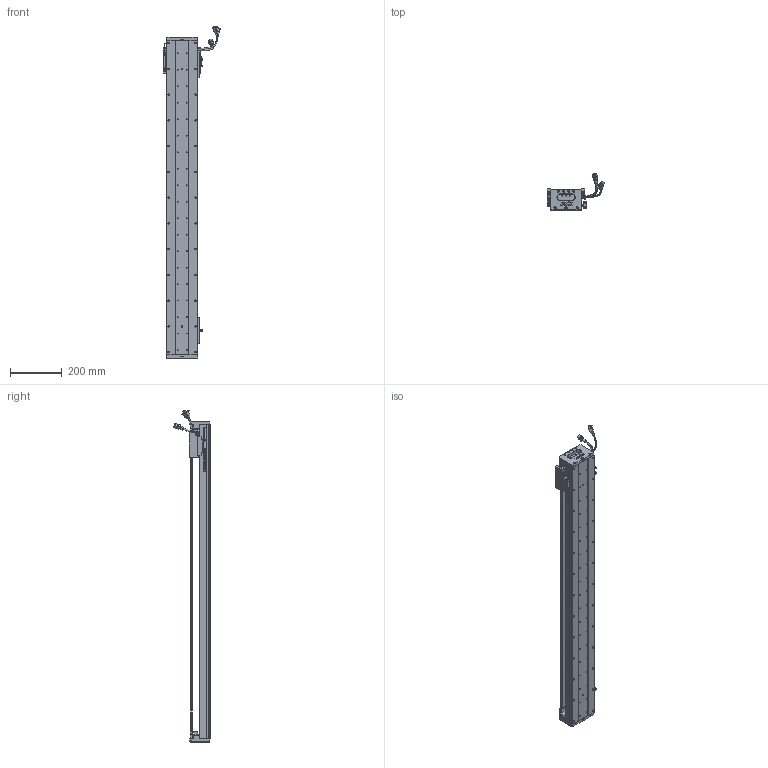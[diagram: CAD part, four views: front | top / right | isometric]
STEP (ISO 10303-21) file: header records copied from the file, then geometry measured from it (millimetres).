
FILE_DESCRIPTION (( 'STEP AP203' ), '1' );
FILE_NAME ('Z1-RY120D-1-L500-B-K.SLDASM_1050.step', '2021-05-17T03:46:13', ( '盈信电脑' ), ( '东莞市道滘镇水果街19号' ), 'SwSTEP 2.0', 'SolidWorks 2016', '' );
FILE_SCHEMA (( 'CONFIG_CONTROL_DESIGN' ));
Length unit declared in the file: millimetre
Products named in the file (37): Z1-RY120D-1-L500-B-K.SLDASM_1050; SCALE-Part-1; Z-RY120D詩湍狟揤裔; PSLH080_PSLF2; HARNESS; HOLDER0; 覜茼ん672; SCREW-M1.6-1; COVER; SCREW-M1.6; SCREW-M1.6-2; SHIELDPLATE; LABEL; 120-Z-臏賑輸盄裔(21遴); SCALE; 140雄赽晤鎢ん堤盄; COVER-Part-1; 080黍杅芛假蚾釱21遴; Z-RY120D詩湍奻揤裔; SCALE-Part-2; 140蚥薯蝶輸; 672嫖萇羲壽假蚾釱; PBU_SHEET; 榋妏寠巭燃_暯_M2_2; Z1-RY120-500-倰第菁釱_1050; Z1-RY120-L500詩湍100mm遵_1050; SCREW-M1.7; RY100FB-遵嫖萇覜茼え; SCREW-M1.6-3; LABEL-Part-1; Z-120詩湍傷裔啣; SCREW-M1.7-1; SEAL-Part-1; SEAL; Z1-RY120铝滑块（21款）; HARNESS-Part-2; HARNESS-Part-1
Assembly tree (43 placements, depth 4):
  Z1-RY120D-1-L500-B-K.SLDASM_1050
    Z1-RY120-500-倰第菁釱_1050
    覜茼ん672  x3
    672嫖萇羲壽假蚾釱  x2
    Z1-RY120铝滑块（21款）
    PSLH080_PSLF2
      SCALE
        SCALE-Part-1
        SCALE-Part-2
      HARNESS
        HARNESS-Part-1
        HARNESS-Part-2
      LABEL
        LABEL-Part-1
      COVER
        COVER-Part-1
      SEAL
        SEAL-Part-1
      榋妏寠巭燃_暯_M2_2
      SHIELDPLATE
      SCREW-M1.7
      SCREW-M1.7-1
      PBU_SHEET
      SCREW-M1.6
      SCREW-M1.6-1
      SCREW-M1.6-2
      SCREW-M1.6-3
      HOLDER0
    080黍杅芛假蚾釱21遴
    120-Z-臏賑輸盄裔(21遴)
    140雄赽晤鎢ん堤盄
    140蚥薯蝶輸  x2
    RY100FB-遵嫖萇覜茼え
    Z-120詩湍傷裔啣  x2
    Z-RY120D詩湍奻揤裔  x2
    Z-RY120D詩湍狟揤裔  x2
    Z1-RY120-L500詩湍100mm遵_1050
Bounding box: 222.88 x 140.94 x 1289 mm (x, y, z)
Volume: 3152051.3 mm3; surface area: 1113586.9 mm2
Topology: 38 solids, 38 shells, 2877 faces, 7882 edges, 4984 vertices
Faces by surface type: cylinder 1342, plane 1135, cone 278, torus 69, bspline 53
Entity records: 88715 total; most frequent: CARTESIAN_POINT 24768, ORIENTED_EDGE 12732, DIRECTION 12208, EDGE_CURVE 6366, AXIS2_PLACEMENT_3D 4450, VERTEX_POINT 4104, VECTOR 3308, LINE 3308
